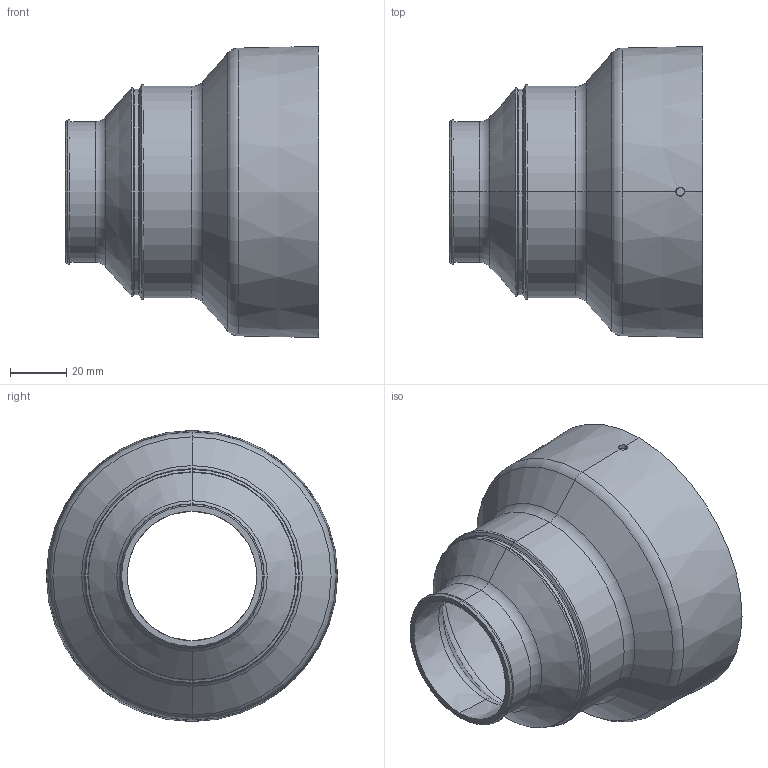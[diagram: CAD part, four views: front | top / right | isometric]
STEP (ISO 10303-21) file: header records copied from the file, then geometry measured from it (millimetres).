
FILE_DESCRIPTION((''),'2;1');
FILE_NAME('105-315_PRT','2022-02-14T08:13:16',('SYSTEM'),(''),'CREO PARAMETRIC BY PTC INC, 2018260','CREO PARAMETRIC BY PTC INC, 2018260','');
FILE_SCHEMA(('CONFIG_CONTROL_DESIGN'));
Length unit declared in the file: millimetre
Products named in the file (1): 105-315_PRT
Bounding box: 90 x 103.35 x 103.35 mm (x, y, z)
Volume: 61560.7 mm3; surface area: 50886.2 mm2
Topology: 1 solids, 1 shells, 222 faces, 580 edges, 362 vertices
Faces by surface type: bspline 108, plane 42, torus 36, cone 30, cylinder 6
Entity records: 11181 total; most frequent: CARTESIAN_POINT 6385, ORIENTED_EDGE 1160, DIRECTION 746, EDGE_CURVE 580, VERTEX_POINT 362, AXIS2_PLACEMENT_3D 296, B_SPLINE_CURVE_WITH_KNOTS 244, EDGE_LOOP 226
